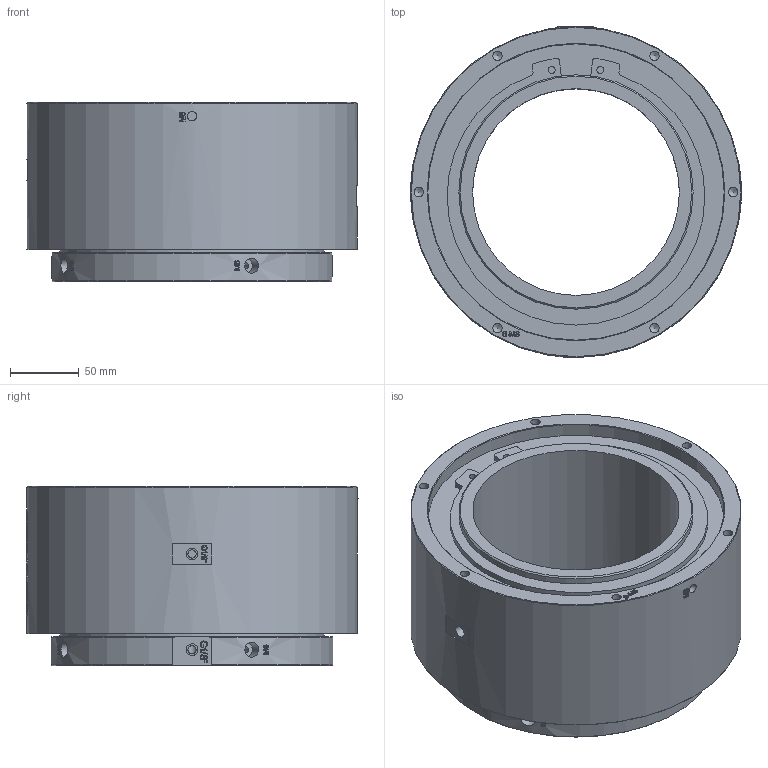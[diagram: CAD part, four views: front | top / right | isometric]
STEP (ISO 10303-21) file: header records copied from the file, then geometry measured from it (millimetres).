
FILE_DESCRIPTION(/* description */ (''),/* implementation_level */ '2;1');
FILE_NAME(/* name */ 'HQ0201-D150-3D模型.stp',/* time_stamp */ '2025-08-04T15:31:13+08:00',/* author */ (''),/* organization */ (''),/* preprocessor_version */ 'ST-DEVELOPER v16.7',/* originating_system */ 'SIEMENS PLM Software NX 12.0',/* authorisation */ '');
FILE_SCHEMA (('AUTOMOTIVE_DESIGN { 1 0 10303 214 3 1 1 1 }'));
Products named in the file (1): Admi06B81AB2g5ef
Bounding box: 240 x 240.87 x 130.4 mm (x, y, z)
Volume: 3155195.2 mm3; surface area: 244198 mm2
Topology: 1 solids, 1 shells, 1479 faces, 4054 edges, 2707 vertices
Faces by surface type: extrusion 834, plane 479, cylinder 77, bspline 70, cone 19
Full cylindrical faces by diameter (mm): 5 x6, 6 x6, 6.7 x2, 6.8 x14, 8.5 x4, 11 x4, 150 x1, 166 x1, 170 x1, 192 x1, 215 x1, 225 x1, 240 x1
Entity records: 58061 total; most frequent: CARTESIAN_POINT 27035, ORIENTED_EDGE 7900, B_SPLINE_CURVE_WITH_KNOTS 3960, EDGE_CURVE 3950, DIRECTION 3110, VERTEX_POINT 2674, EDGE_LOOP 1680, ADVANCED_FACE 1479
